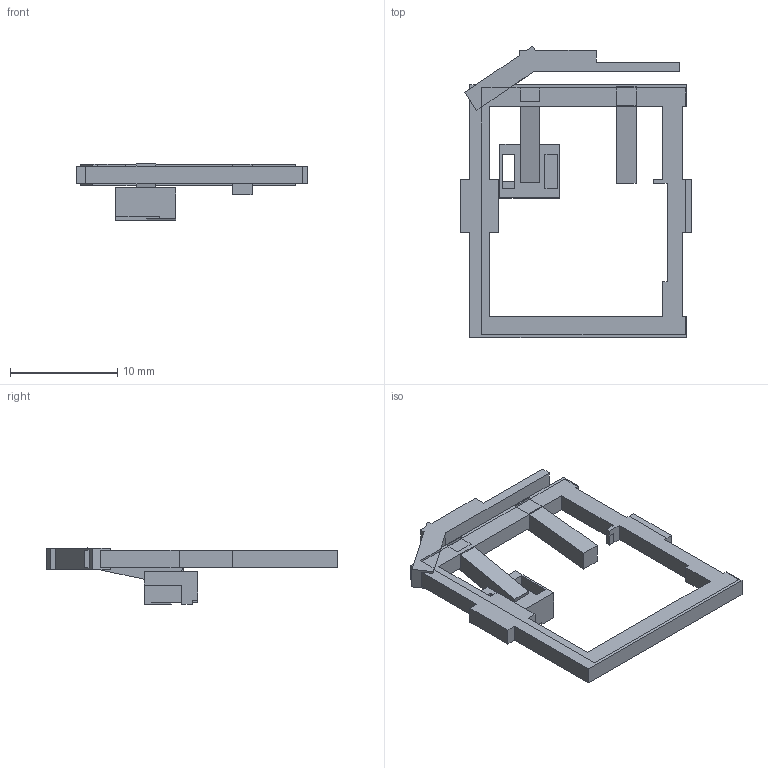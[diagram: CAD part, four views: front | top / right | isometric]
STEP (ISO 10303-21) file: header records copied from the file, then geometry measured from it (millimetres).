
FILE_DESCRIPTION(('Open CASCADE Model'),'2;1');
FILE_NAME('Open CASCADE Shape Model','2026-10-17T17:22:22',('Author'),( 'Open CASCADE'),'Open CASCADE STEP processor 7.9','Open CASCADE 7.9' ,'Unknown');
FILE_SCHEMA(('AUTOMOTIVE_DESIGN { 1 0 10303 214 1 1 1 1 }'));
Length unit declared in the file: millimetre
Products named in the file (1): Open CASCADE STEP translator 7.9 2
Bounding box: 21.6 x 27.19 x 5.24 mm (x, y, z)
Volume: 404.8 mm3; surface area: 955.6 mm2
Topology: 1 solids, 1 shells, 109 faces, 311 edges, 206 vertices
Faces by surface type: plane 109
Entity records: 7314 total; most frequent: CARTESIAN_POINT 1469, DIRECTION 933, LINE 713, VECTOR 713, ORIENTED_EDGE 622, PCURVE 622, DEFINITIONAL_REPRESENTATION 622, EDGE_CURVE 311
